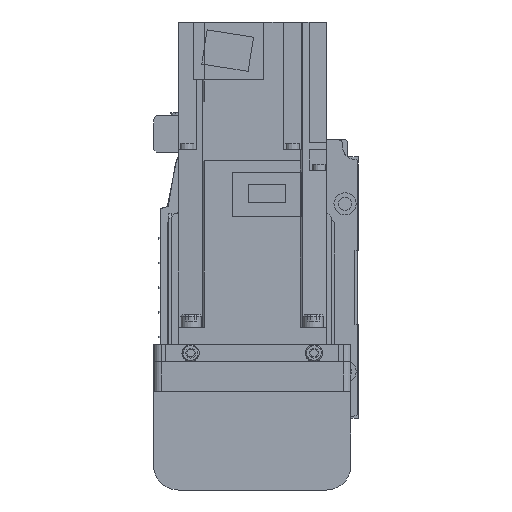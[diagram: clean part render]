
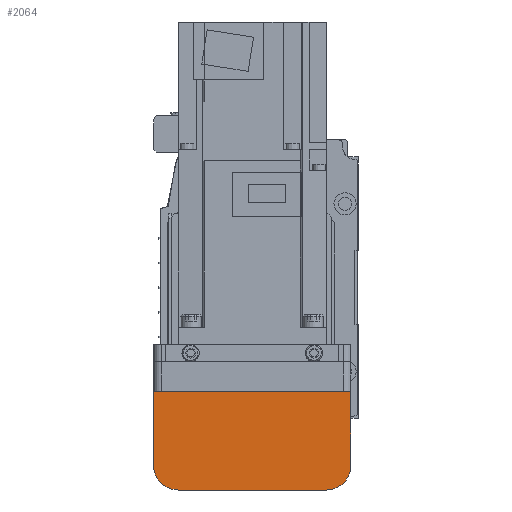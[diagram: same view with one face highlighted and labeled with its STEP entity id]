
A CAD part, left-side view. The second image highlights one B-rep face of the part: STEP entity #2064.
In plain terms, the highlighted planar face has unit normal (-1, 0, 0).
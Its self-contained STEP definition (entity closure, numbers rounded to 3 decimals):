
#2064 = ADVANCED_FACE( '', ( #4410 ), #4411, .F. );
#4410 = FACE_OUTER_BOUND( '', #6946, .T. );
#4411 = PLANE( '', #6947 );
#6946 = EDGE_LOOP( '', ( #12544, #12545, #12546, #12547, #12548, #12549 ) );
#6947 = AXIS2_PLACEMENT_3D( '', #12550, #12551, #12552 );
#12544 = ORIENTED_EDGE( '', *, *, #14763, .F. );
#12545 = ORIENTED_EDGE( '', *, *, #14626, .F. );
#12546 = ORIENTED_EDGE( '', *, *, #16109, .F. );
#12547 = ORIENTED_EDGE( '', *, *, #15713, .F. );
#12548 = ORIENTED_EDGE( '', *, *, #15002, .F. );
#12549 = ORIENTED_EDGE( '', *, *, #15853, .F. );
#12550 = CARTESIAN_POINT( '', ( -192., 37., 7. ) );
#12551 = DIRECTION( '', ( 1., 0., 0. ) );
#12552 = DIRECTION( '', ( 0., 0., -1. ) );
#14626 = EDGE_CURVE( '', #17522, #17352, #17524, .T. );
#14763 = EDGE_CURVE( '', #17352, #17753, #17754, .T. );
#15002 = EDGE_CURVE( '', #18143, #18145, #18146, .T. );
#15713 = EDGE_CURVE( '', #18145, #19225, #19226, .T. );
#15853 = EDGE_CURVE( '', #17753, #18143, #19427, .T. );
#16109 = EDGE_CURVE( '', #19225, #17522, #19778, .T. );
#17352 = VERTEX_POINT( '', #21312 );
#17522 = VERTEX_POINT( '', #21550 );
#17524 = LINE( '', #21553, #21554 );
#17753 = VERTEX_POINT( '', #21844 );
#17754 = LINE( '', #21845, #21846 );
#18143 = VERTEX_POINT( '', #22372 );
#18145 = VERTEX_POINT( '', #22375 );
#18146 = CIRCLE( '', #22376, 10. );
#19225 = VERTEX_POINT( '', #23833 );
#19226 = LINE( '', #23834, #23835 );
#19427 = LINE( '', #24090, #24091 );
#19778 = CIRCLE( '', #24571, 10. );
#21312 = CARTESIAN_POINT( '', ( -192., 40., -12.1 ) );
#21550 = CARTESIAN_POINT( '', ( -192., 40., -42. ) );
#21553 = CARTESIAN_POINT( '', ( -192., 40., -42. ) );
#21554 = VECTOR( '', #26092, 1000. );
#21844 = CARTESIAN_POINT( '', ( -192., -40., -12.1 ) );
#21845 = CARTESIAN_POINT( '', ( -192., 50., -12.1 ) );
#21846 = VECTOR( '', #26280, 1000. );
#22372 = CARTESIAN_POINT( '', ( -192., -40., -42. ) );
#22375 = CARTESIAN_POINT( '', ( -192., -30., -52. ) );
#22376 = AXIS2_PLACEMENT_3D( '', #26569, #26570, #26571 );
#23833 = CARTESIAN_POINT( '', ( -192., 30., -52. ) );
#23834 = CARTESIAN_POINT( '', ( -192., -30., -52. ) );
#23835 = VECTOR( '', #27442, 1000. );
#24090 = CARTESIAN_POINT( '', ( -192., -40., -12.1 ) );
#24091 = VECTOR( '', #27632, 1000. );
#24571 = AXIS2_PLACEMENT_3D( '', #27918, #27919, #27920 );
#26092 = DIRECTION( '', ( 0., 0., 1. ) );
#26280 = DIRECTION( '', ( 0., -1., 0. ) );
#26569 = CARTESIAN_POINT( '', ( -192., -30., -42. ) );
#26570 = DIRECTION( '', ( 1., 0., 0. ) );
#26571 = DIRECTION( '', ( 0., 0., -1. ) );
#27442 = DIRECTION( '', ( 0., 1., 0. ) );
#27632 = DIRECTION( '', ( 0., 0., -1. ) );
#27918 = CARTESIAN_POINT( '', ( -192., 30., -42. ) );
#27919 = DIRECTION( '', ( 1., 0., 0. ) );
#27920 = DIRECTION( '', ( 0., 0., -1. ) );
